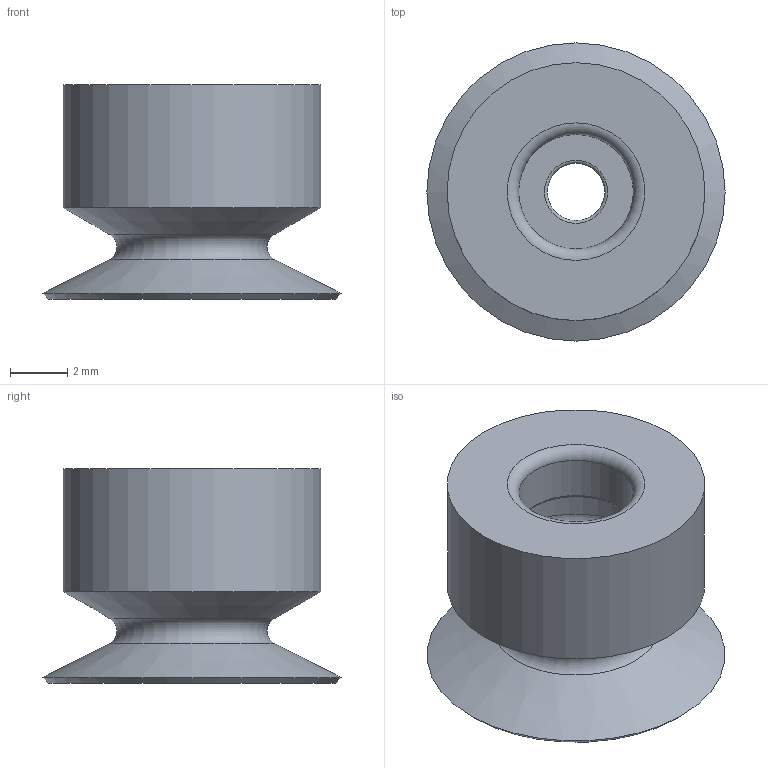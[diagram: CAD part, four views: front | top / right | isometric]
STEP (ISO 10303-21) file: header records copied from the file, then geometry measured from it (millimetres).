
FILE_DESCRIPTION(('STEP AP203'),'1');
FILE_NAME('BPAG-10A_3D.stp','2024-06-11T00:01:21',(' '),(' '),'Spatial InterOp 3D',' ',' ');
FILE_SCHEMA(('CONFIG_CONTROL_DESIGN'));
Length unit declared in the file: millimetre
Products named in the file (1): 1
Bounding box: 10.41 x 10.41 x 7.5 mm (x, y, z)
Volume: 279.9 mm3; surface area: 514.2 mm2
Topology: 1 solids, 1 shells, 51 faces, 87 edges, 56 vertices
Faces by surface type: plane 20, cylinder 20, torus 7, cone 4
Full cylindrical faces by diameter (mm): 0.9 x16, 2 x1, 4 x1, 6 x1, 9 x1
Entity records: 1072 total; most frequent: DIRECTION 206, CARTESIAN_POINT 154, AXIS2_PLACEMENT_3D 103, EDGE_LOOP 102, ORIENTED_EDGE 102, FACE_OUTER_BOUND 78, ADVANCED_FACE 51, EDGE_CURVE 51
